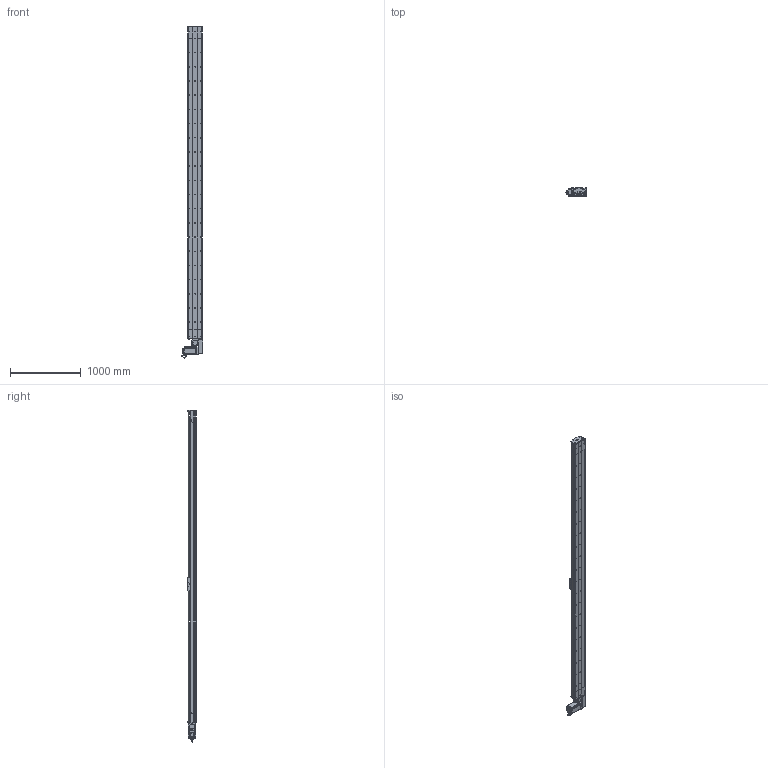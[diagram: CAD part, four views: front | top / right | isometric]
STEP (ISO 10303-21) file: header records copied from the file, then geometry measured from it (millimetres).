
FILE_DESCRIPTION (( 'STEP AP214' ), '1' );
FILE_NAME ('D20 TBH LH S4100.STEP', '2010-07-01T09:19:53', ( 'Conseil Régional Haute-Normandie' ), ( 'Conseil Régional Haute-Normandie' ), 'SwSTEP 2.0', 'SolidWorks 2010', '' );
FILE_SCHEMA (( 'AUTOMOTIVE_DESIGN' ));
Length unit declared in the file: millimetre
Products named in the file (40): couroie_Default; rail head D20; vis M5 L70_Default; head LH_Default; guide D20B; corpl head D20_Default; rail + couroie  D20 S4100; Chariot D20B; couvercle head D20_Default; plaque de  bout head D20B LH_Default; poulie head D20_Default; chariot D20B_Default; cache arbre D20_Default; rail tail D20; cache D20_Default; vis M5 L5_Default; Moteur motionking 110BLDC170A-640x; Plaque racord D20LH_Default; Renvoi LH D20_Default; tete d''axe poulie D20B; couvercle tail D20_Default; Couroie tail D20_Default; Conecteur_Default; tail D20+100_Default; vis M8 L12_Default; clavette; avant 110BLDC170A-630x; poulie tail D20_Default; corpl tail D20 +100_Default; vis M5 L12_Default; plaque de  bout tail D20_Default; codeur 110BLDC170A-630x; corps 110BLDC170A-630x; vis M5 L8 90°_Default; vis M5 L25_Default; Conecteur2_Default; couvercle D20 S4100_Default; corp D20 S4100_Default; Course B L4100_Default; D20 TBH LH S4100
Assembly tree (71 placements, depth 4):
  D20 TBH LH S4100
    Course B L4100_Default
      corp D20 S4100_Default
      couvercle D20 S4100_Default
      rail + couroie  D20 S4100
    chariot D20B_Default
      vis M5 L12_Default  x4
      guide D20B  x2
      Chariot D20B
    tail D20+100_Default
      vis M5 L12_Default  x4
      poulie tail D20_Default
      rail tail D20
      vis M5 L25_Default  x2
      Couroie tail D20_Default
      corpl tail D20 +100_Default
      vis M5 L8 90°_Default  x2
      tete d''axe poulie D20B
      couvercle tail D20_Default
      plaque de  bout tail D20_Default
    head LH_Default
      vis M5 L12_Default  x10
      vis M5 L5_Default  x4
      vis M8 L12_Default  x4
      vis M5 L70_Default  x4
      vis M5 L25_Default  x2
      cache D20_Default  x2
      plaque de  bout head D20B LH_Default
      couroie_Default
      poulie head D20_Default
      cache arbre D20_Default
      corpl head D20_Default
      couvercle head D20_Default
      Moteur motionking 110BLDC170A-640x
        avant 110BLDC170A-630x
        Conecteur_Default
        Conecteur2_Default
        codeur 110BLDC170A-630x
        corps 110BLDC170A-630x
        clavette
      rail head D20
      Renvoi LH D20_Default
      Plaque racord D20LH_Default
Bounding box: 304.2 x 115.7 x 4680 mm (x, y, z)
Volume: 34619175.1 mm3; surface area: 8660265.5 mm2
Topology: 95 solids, 95 shells, 2966 faces, 7740 edges, 5011 vertices
Faces by surface type: plane 1665, cylinder 977, bspline 136, cone 99, torus 89
Entity records: 98343 total; most frequent: CARTESIAN_POINT 32459, ORIENTED_EDGE 12136, DIRECTION 11319, EDGE_CURVE 6068, VERTEX_POINT 3997, AXIS2_PLACEMENT_3D 3781, VECTOR 3757, LINE 3757
